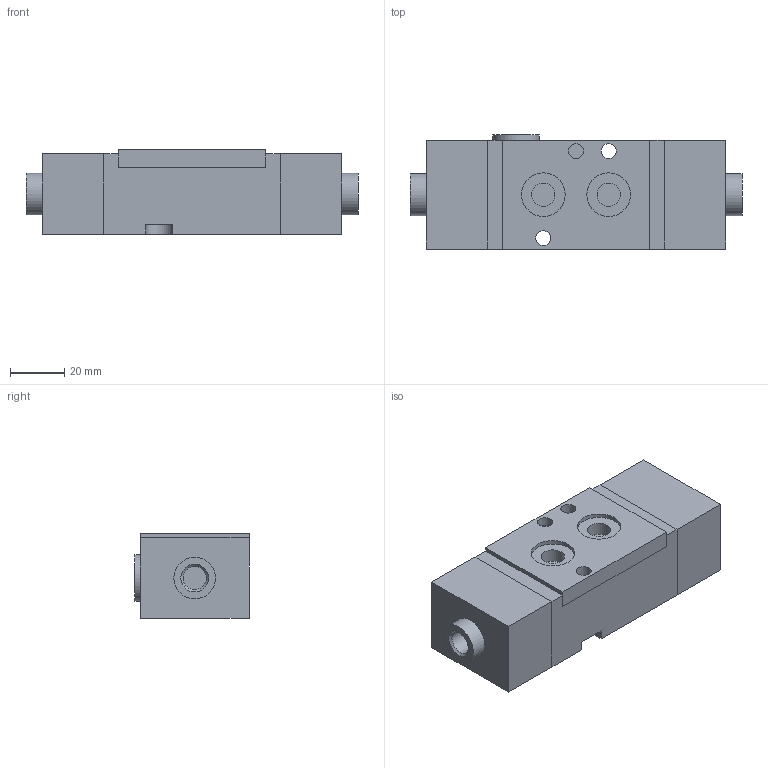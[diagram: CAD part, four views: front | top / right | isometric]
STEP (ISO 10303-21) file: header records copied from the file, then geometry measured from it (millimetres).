
FILE_DESCRIPTION((''),'2;1');
FILE_NAME('I:\Area Tecnica\Disegni\VARIE-3D\Componenti\T514\3D\T514_42_00_18.stp','2008-05-09T11:20:26',('foiengi1'),(''),'Autodesk Inventor 2008','Autodesk Inventor 2008','');
FILE_SCHEMA(('AUTOMOTIVE_DESIGN { 1 0 10303 214 1 1 1 1 }'));
Length unit declared in the file: millimetre
Products named in the file (1): T514_42_00_18
Bounding box: 122 x 42 x 31 mm (x, y, z)
Volume: 129538.9 mm3; surface area: 21192.6 mm2
Topology: 1 solids, 1 shells, 83 faces, 175 edges, 114 vertices
Faces by surface type: plane 44, bspline 29, cylinder 9, cone 1
Full cylindrical faces by diameter (mm): 5.5 x2, 8.566 x1, 15.31 x1, 16 x2, 17 x1
Entity records: 2380 total; most frequent: CARTESIAN_POINT 647, DIRECTION 308, ORIENTED_EDGE 304, EDGE_CURVE 152, EDGE_LOOP 130, VERTEX_POINT 114, VECTOR 106, LINE 106
